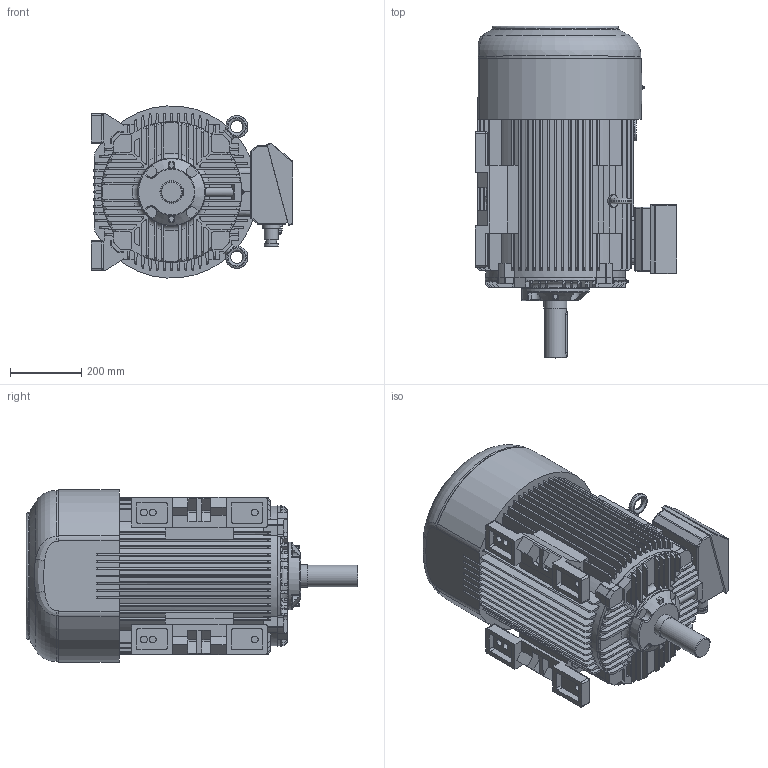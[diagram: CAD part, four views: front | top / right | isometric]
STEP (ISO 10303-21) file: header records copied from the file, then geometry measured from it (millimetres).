
FILE_DESCRIPTION( ( 'Unknown' ), '1' );
FILE_NAME( 'P:/3D_Bry³y silników skatalogowane/SIE/2SIE225/2SIE225_STEP/2SIE225 S_M4_6 silnik.stp', 'Unknown', ( 'Unknown' ), ( 'Unknown' ), 'XStep 1.0', 'Unknown', ' ' );
FILE_SCHEMA( ( 'CONFIG_CONTROL_DESIGN' ) );
Length unit declared in the file: millimetre
Products named in the file (1): 1
Bounding box: 565.05 x 930 x 482.33 mm (x, y, z)
Volume: 115005625.4 mm3; surface area: 2976582.6 mm2
Topology: 1 solids, 5 shells, 1206 faces, 3263 edges, 2090 vertices
Faces by surface type: plane 771, cylinder 305, torus 91, bspline 18, sphere 14, cone 7
Full cylindrical faces by diameter (mm): 1.6 x2, 5 x4, 10 x3, 12.891 x1, 19 x6, 20 x1, 22.969 x1, 26.249 x1, 27 x1, 30 x4, 35 x4, 40 x4, 47 x2, 60 x1, 64.5 x1, 188 x1, 190 x1
Entity records: 42292 total; most frequent: CARTESIAN_POINT 12108, ORIENTED_EDGE 6348, DIRECTION 6221, EDGE_CURVE 3174, AXIS2_PLACEMENT_3D 2119, VERTEX_POINT 2073, LINE 1983, VECTOR 1983
